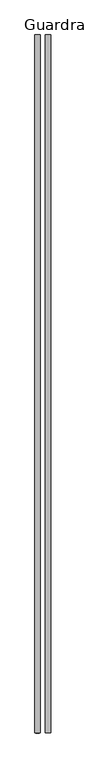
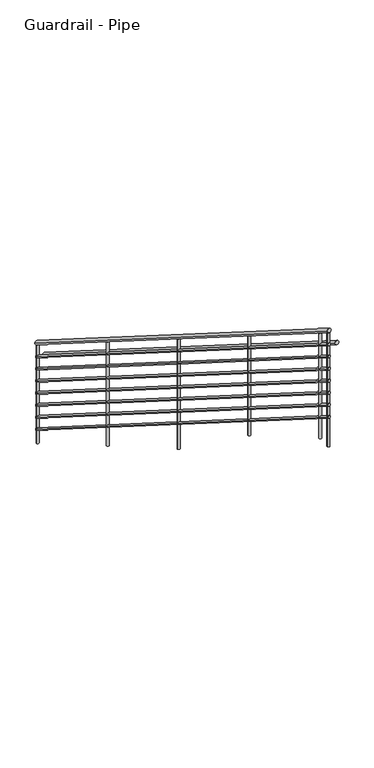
"""IFC4 building model written with IfcOpenShell, lengths in millimetres: railing geometry, Guardrail - Pipe."""

from ifc_helpers import new_model, si_unit, frame, origin, place, context, project, spatial, circle_curve, ellipse_curve, source, transform, mapped, element, save
from ifc_brep_helpers import plane_surface, cylinder_surface, advanced_brep


def guardrail_pipe_35f92d01(model_context):
    return source(origin(), model_context, "Body", "AdvancedBrep", [
        advanced_brep(
        [(-21997.1977721, 4514.4811943, 1220.7318155), (-22035.2977721, 4514.4811943, 1220.7318155), (-21997.1977721, -514.7188057, 4397.0686576), (-22035.2977721, -514.7188057, 4397.0686576)],
        [
            (0, 1, ellipse_curve(frame((-22016.2477721, 4514.4811943, 1220.7318155), z_axis=(0.0, 1.0, 0.0), x_axis=(0.0, 0.0, -1.0)), 22.5313424, 19.05)),
            (1, 0, ellipse_curve(frame((-22016.2477721, 4514.4811943, 1220.7318155), z_axis=(0.0, 1.0, 0.0), x_axis=(0.0, 0.0, -1.0)), 22.5313424, 19.05)),
            (2, 3, ellipse_curve(frame((-22016.2477721, -514.7188057, 4397.0686576), z_axis=(0.0, -1.0, 0.0), x_axis=(0.0, 0.0, -1.0)), 22.5313424, 19.05)),
            (3, 2, ellipse_curve(frame((-22016.2477721, -514.7188057, 4397.0686576), z_axis=(0.0, -1.0, 0.0), x_axis=(0.0, 0.0, -1.0)), 22.5313424, 19.05)),
            (0, 2),
            (3, 1),
        ],
        [
            plane_surface(frame((-22016.2477721, 4514.4811943, 1243.2631579), z_axis=(0.0, 1.0, 0.0), x_axis=(0.0, 0.0, -1.0))),
            plane_surface(frame((-22016.2477721, -514.7188057, 4419.6), z_axis=(0.0, -1.0, 0.0), x_axis=(0.0, 0.0, -1.0))),
            cylinder_surface(frame((-22016.2477721, 4504.3086279, 1227.1565943), z_axis=(0.0, 0.8454889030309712, -0.5339929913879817), x_axis=(-1.0, 0.0, 0.0)), 19.05),
        ],
        [
            (0, [[1, 2]]),
            (1, [[3, 4]]),
            (2, [[-1, 5, -4, 6]]),
            (2, [[-2, -6, -3, -5]]),
        ],
    ),
        advanced_brep(
        [(-22003.5477721, 4514.4811943, 1075.8422629), (-22028.9477721, 4514.4811943, 1075.8422629), (-22003.5477721, -514.7188057, 4252.179105), (-22028.9477721, -514.7188057, 4252.179105)],
        [
            (0, 1, ellipse_curve(frame((-22016.2477721, 4514.4811943, 1075.8422629), z_axis=(0.0, 1.0, 0.0), x_axis=(0.0, 0.0, -1.0)), 15.020895, 12.7)),
            (1, 0, ellipse_curve(frame((-22016.2477721, 4514.4811943, 1075.8422629), z_axis=(0.0, 1.0, 0.0), x_axis=(0.0, 0.0, -1.0)), 15.020895, 12.7)),
            (2, 3, ellipse_curve(frame((-22016.2477721, -514.7188057, 4252.179105), z_axis=(0.0, -1.0, 0.0), x_axis=(0.0, 0.0, -1.0)), 15.020895, 12.7)),
            (3, 2, ellipse_curve(frame((-22016.2477721, -514.7188057, 4252.179105), z_axis=(0.0, -1.0, 0.0), x_axis=(0.0, 0.0, -1.0)), 15.020895, 12.7)),
            (0, 2),
            (3, 1),
        ],
        [
            plane_surface(frame((-22016.2477721, 4514.4811943, 1090.8631579), z_axis=(0.0, 1.0, 0.0), x_axis=(0.0, 0.0, -1.0))),
            plane_surface(frame((-22016.2477721, -514.7188057, 4267.2), z_axis=(0.0, -1.0, 0.0), x_axis=(0.0, 0.0, -1.0))),
            cylinder_surface(frame((-22016.2477721, 4507.6994834, 1080.1254488), z_axis=(0.0, 0.8454889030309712, -0.5339929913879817), x_axis=(-1.0, 0.0, 0.0)), 12.7),
        ],
        [
            (0, [[1, 2]]),
            (1, [[3, 4]]),
            (2, [[-1, 5, -4, 6]]),
            (2, [[-2, -6, -3, -5]]),
        ],
    ),
        advanced_brep(
        [(-21920.9977721, 4514.4811943, 1068.3318155), (-21959.0977721, 4514.4811943, 1068.3318155), (-21920.9977721, -514.7188057, 4244.6686576), (-21959.0977721, -514.7188057, 4244.6686576)],
        [
            (0, 1, ellipse_curve(frame((-21940.0477721, 4514.4811943, 1068.3318155), z_axis=(0.0, 1.0, 0.0), x_axis=(0.0, 0.0, -1.0)), 22.5313424, 19.05)),
            (1, 0, ellipse_curve(frame((-21940.0477721, 4514.4811943, 1068.3318155), z_axis=(0.0, 1.0, 0.0), x_axis=(0.0, 0.0, -1.0)), 22.5313424, 19.05)),
            (2, 3, ellipse_curve(frame((-21940.0477721, -514.7188057, 4244.6686576), z_axis=(0.0, -1.0, 0.0), x_axis=(0.0, 0.0, -1.0)), 22.5313424, 19.05)),
            (3, 2, ellipse_curve(frame((-21940.0477721, -514.7188057, 4244.6686576), z_axis=(0.0, -1.0, 0.0), x_axis=(0.0, 0.0, -1.0)), 22.5313424, 19.05)),
            (0, 2),
            (3, 1),
        ],
        [
            plane_surface(frame((-21940.0477721, 4514.4811943, 1090.8631579), z_axis=(0.0, 1.0, 0.0), x_axis=(0.0, 0.0, -1.0))),
            plane_surface(frame((-21940.0477721, -514.7188057, 4267.2), z_axis=(0.0, -1.0, 0.0), x_axis=(0.0, 0.0, -1.0))),
            cylinder_surface(frame((-21940.0477721, 4504.3086279, 1074.7565943), z_axis=(0.0, 0.8454889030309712, -0.5339929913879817), x_axis=(-1.0, 0.0, 0.0)), 19.05),
        ],
        [
            (0, [[1, 2]]),
            (1, [[3, 4]]),
            (2, [[-1, 5, -4, 6]]),
            (2, [[-2, -6, -3, -5]]),
        ],
    ),
        advanced_brep(
        [(-22003.5477721, 4514.4811943, 948.8422629), (-22028.9477721, 4514.4811943, 948.8422629), (-22003.5477721, -514.7188057, 4125.179105), (-22028.9477721, -514.7188057, 4125.179105)],
        [
            (0, 1, ellipse_curve(frame((-22016.2477721, 4514.4811943, 948.8422629), z_axis=(0.0, 1.0, 0.0), x_axis=(0.0, 0.0, -1.0)), 15.020895, 12.7)),
            (1, 0, ellipse_curve(frame((-22016.2477721, 4514.4811943, 948.8422629), z_axis=(0.0, 1.0, 0.0), x_axis=(0.0, 0.0, -1.0)), 15.020895, 12.7)),
            (2, 3, ellipse_curve(frame((-22016.2477721, -514.7188057, 4125.179105), z_axis=(0.0, -1.0, 0.0), x_axis=(0.0, 0.0, -1.0)), 15.020895, 12.7)),
            (3, 2, ellipse_curve(frame((-22016.2477721, -514.7188057, 4125.179105), z_axis=(0.0, -1.0, 0.0), x_axis=(0.0, 0.0, -1.0)), 15.020895, 12.7)),
            (0, 2),
            (3, 1),
        ],
        [
            plane_surface(frame((-22016.2477721, 4514.4811943, 963.8631579), z_axis=(0.0, 1.0, 0.0), x_axis=(0.0, 0.0, -1.0))),
            plane_surface(frame((-22016.2477721, -514.7188057, 4140.2), z_axis=(0.0, -1.0, 0.0), x_axis=(0.0, 0.0, -1.0))),
            cylinder_surface(frame((-22016.2477721, 4507.6994834, 953.1254488), z_axis=(0.0, 0.8454889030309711, -0.5339929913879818), x_axis=(-1.0, 0.0, 0.0)), 12.7),
        ],
        [
            (0, [[1, 2]]),
            (1, [[3, 4]]),
            (2, [[-1, 5, -4, 6]]),
            (2, [[-2, -6, -3, -5]]),
        ],
    ),
        advanced_brep(
        [(-22003.5477721, 4514.4811943, 821.8422629), (-22028.9477721, 4514.4811943, 821.8422629), (-22003.5477721, -514.7188057, 3998.179105), (-22028.9477721, -514.7188057, 3998.179105)],
        [
            (0, 1, ellipse_curve(frame((-22016.2477721, 4514.4811943, 821.8422629), z_axis=(0.0, 1.0, 0.0), x_axis=(0.0, 0.0, -1.0)), 15.020895, 12.7)),
            (1, 0, ellipse_curve(frame((-22016.2477721, 4514.4811943, 821.8422629), z_axis=(0.0, 1.0, 0.0), x_axis=(0.0, 0.0, -1.0)), 15.020895, 12.7)),
            (2, 3, ellipse_curve(frame((-22016.2477721, -514.7188057, 3998.179105), z_axis=(0.0, -1.0, 0.0), x_axis=(0.0, 0.0, -1.0)), 15.020895, 12.7)),
            (3, 2, ellipse_curve(frame((-22016.2477721, -514.7188057, 3998.179105), z_axis=(0.0, -1.0, 0.0), x_axis=(0.0, 0.0, -1.0)), 15.020895, 12.7)),
            (0, 2),
            (3, 1),
        ],
        [
            plane_surface(frame((-22016.2477721, 4514.4811943, 836.8631579), z_axis=(0.0, 1.0, 0.0), x_axis=(0.0, 0.0, -1.0))),
            plane_surface(frame((-22016.2477721, -514.7188057, 4013.2), z_axis=(0.0, -1.0, 0.0), x_axis=(0.0, 0.0, -1.0))),
            cylinder_surface(frame((-22016.2477721, 4507.6994834, 826.1254488), z_axis=(0.0, 0.8454889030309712, -0.5339929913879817), x_axis=(-1.0, 0.0, 0.0)), 12.7),
        ],
        [
            (0, [[1, 2]]),
            (1, [[3, 4]]),
            (2, [[-1, 5, -4, 6]]),
            (2, [[-2, -6, -3, -5]]),
        ],
    ),
        advanced_brep(
        [(-22003.5477721, 4514.4811943, 694.8422629), (-22028.9477721, 4514.4811943, 694.8422629), (-22003.5477721, -514.7188057, 3871.179105), (-22028.9477721, -514.7188057, 3871.179105)],
        [
            (0, 1, ellipse_curve(frame((-22016.2477721, 4514.4811943, 694.8422629), z_axis=(0.0, 1.0, 0.0), x_axis=(0.0, 0.0, -1.0)), 15.020895, 12.7)),
            (1, 0, ellipse_curve(frame((-22016.2477721, 4514.4811943, 694.8422629), z_axis=(0.0, 1.0, 0.0), x_axis=(0.0, 0.0, -1.0)), 15.020895, 12.7)),
            (2, 3, ellipse_curve(frame((-22016.2477721, -514.7188057, 3871.179105), z_axis=(0.0, -1.0, 0.0), x_axis=(0.0, 0.0, -1.0)), 15.020895, 12.7)),
            (3, 2, ellipse_curve(frame((-22016.2477721, -514.7188057, 3871.179105), z_axis=(0.0, -1.0, 0.0), x_axis=(0.0, 0.0, -1.0)), 15.020895, 12.7)),
            (0, 2),
            (3, 1),
        ],
        [
            plane_surface(frame((-22016.2477721, 4514.4811943, 709.8631579), z_axis=(0.0, 1.0, 0.0), x_axis=(0.0, 0.0, -1.0))),
            plane_surface(frame((-22016.2477721, -514.7188057, 3886.2), z_axis=(0.0, -1.0, 0.0), x_axis=(0.0, 0.0, -1.0))),
            cylinder_surface(frame((-22016.2477721, 4507.6994834, 699.1254488), z_axis=(0.0, 0.8454889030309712, -0.5339929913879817), x_axis=(-1.0, 0.0, 0.0)), 12.7),
        ],
        [
            (0, [[1, 2]]),
            (1, [[3, 4]]),
            (2, [[-1, 5, -4, 6]]),
            (2, [[-2, -6, -3, -5]]),
        ],
    ),
        advanced_brep(
        [(-22003.5477721, 4514.4811943, 567.8422629), (-22028.9477721, 4514.4811943, 567.8422629), (-22003.5477721, -514.7188057, 3744.179105), (-22028.9477721, -514.7188057, 3744.179105)],
        [
            (0, 1, ellipse_curve(frame((-22016.2477721, 4514.4811943, 567.8422629), z_axis=(0.0, 1.0, 0.0), x_axis=(0.0, 0.0, -1.0)), 15.020895, 12.7)),
            (1, 0, ellipse_curve(frame((-22016.2477721, 4514.4811943, 567.8422629), z_axis=(0.0, 1.0, 0.0), x_axis=(0.0, 0.0, -1.0)), 15.020895, 12.7)),
            (2, 3, ellipse_curve(frame((-22016.2477721, -514.7188057, 3744.179105), z_axis=(0.0, -1.0, 0.0), x_axis=(0.0, 0.0, -1.0)), 15.020895, 12.7)),
            (3, 2, ellipse_curve(frame((-22016.2477721, -514.7188057, 3744.179105), z_axis=(0.0, -1.0, 0.0), x_axis=(0.0, 0.0, -1.0)), 15.020895, 12.7)),
            (0, 2),
            (3, 1),
        ],
        [
            plane_surface(frame((-22016.2477721, 4514.4811943, 582.8631579), z_axis=(0.0, 1.0, 0.0), x_axis=(0.0, 0.0, -1.0))),
            plane_surface(frame((-22016.2477721, -514.7188057, 3759.2), z_axis=(0.0, -1.0, 0.0), x_axis=(0.0, 0.0, -1.0))),
            cylinder_surface(frame((-22016.2477721, 4507.6994834, 572.1254488), z_axis=(0.0, 0.8454889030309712, -0.5339929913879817), x_axis=(-1.0, 0.0, 0.0)), 12.7),
        ],
        [
            (0, [[1, 2]]),
            (1, [[3, 4]]),
            (2, [[-1, 5, -4, 6]]),
            (2, [[-2, -6, -3, -5]]),
        ],
    ),
        advanced_brep(
        [(-22003.5477721, 4514.4811943, 440.8422629), (-22028.9477721, 4514.4811943, 440.8422629), (-22003.5477721, -514.7188057, 3617.179105), (-22028.9477721, -514.7188057, 3617.179105)],
        [
            (0, 1, ellipse_curve(frame((-22016.2477721, 4514.4811943, 440.8422629), z_axis=(0.0, 1.0, 0.0), x_axis=(0.0, 0.0, -1.0)), 15.020895, 12.7)),
            (1, 0, ellipse_curve(frame((-22016.2477721, 4514.4811943, 440.8422629), z_axis=(0.0, 1.0, 0.0), x_axis=(0.0, 0.0, -1.0)), 15.020895, 12.7)),
            (2, 3, ellipse_curve(frame((-22016.2477721, -514.7188057, 3617.179105), z_axis=(0.0, -1.0, 0.0), x_axis=(0.0, 0.0, -1.0)), 15.020895, 12.7)),
            (3, 2, ellipse_curve(frame((-22016.2477721, -514.7188057, 3617.179105), z_axis=(0.0, -1.0, 0.0), x_axis=(0.0, 0.0, -1.0)), 15.020895, 12.7)),
            (0, 2),
            (3, 1),
        ],
        [
            plane_surface(frame((-22016.2477721, 4514.4811943, 455.8631579), z_axis=(0.0, 1.0, 0.0), x_axis=(0.0, 0.0, -1.0))),
            plane_surface(frame((-22016.2477721, -514.7188057, 3632.2), z_axis=(0.0, -1.0, 0.0), x_axis=(0.0, 0.0, -1.0))),
            cylinder_surface(frame((-22016.2477721, 4507.6994834, 445.1254488), z_axis=(0.0, 0.8454889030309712, -0.5339929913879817), x_axis=(-1.0, 0.0, 0.0)), 12.7),
        ],
        [
            (0, [[1, 2]]),
            (1, [[3, 4]]),
            (2, [[-1, 5, -4, 6]]),
            (2, [[-2, -6, -3, -5]]),
        ],
    ),
        advanced_brep(
        [(-22003.5477721, 4514.4811943, 313.8422629), (-22028.9477721, 4514.4811943, 313.8422629), (-22003.5477721, -514.7188057, 3490.179105), (-22028.9477721, -514.7188057, 3490.179105)],
        [
            (0, 1, ellipse_curve(frame((-22016.2477721, 4514.4811943, 313.8422629), z_axis=(0.0, 1.0, 0.0), x_axis=(0.0, 0.0, -1.0)), 15.020895, 12.7)),
            (1, 0, ellipse_curve(frame((-22016.2477721, 4514.4811943, 313.8422629), z_axis=(0.0, 1.0, 0.0), x_axis=(0.0, 0.0, -1.0)), 15.020895, 12.7)),
            (2, 3, ellipse_curve(frame((-22016.2477721, -514.7188057, 3490.179105), z_axis=(0.0, -1.0, 0.0), x_axis=(0.0, 0.0, -1.0)), 15.020895, 12.7)),
            (3, 2, ellipse_curve(frame((-22016.2477721, -514.7188057, 3490.179105), z_axis=(0.0, -1.0, 0.0), x_axis=(0.0, 0.0, -1.0)), 15.020895, 12.7)),
            (0, 2),
            (3, 1),
        ],
        [
            plane_surface(frame((-22016.2477721, 4514.4811943, 328.8631579), z_axis=(0.0, 1.0, 0.0), x_axis=(0.0, 0.0, -1.0))),
            plane_surface(frame((-22016.2477721, -514.7188057, 3505.2), z_axis=(0.0, -1.0, 0.0), x_axis=(0.0, 0.0, -1.0))),
            cylinder_surface(frame((-22016.2477721, 4507.6994834, 318.1254488), z_axis=(0.0, 0.8454889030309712, -0.5339929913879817), x_axis=(-1.0, 0.0, 0.0)), 12.7),
        ],
        [
            (0, [[1, 2]]),
            (1, [[3, 4]]),
            (2, [[-1, 5, -4, 6]]),
            (2, [[-2, -6, -3, -5]]),
        ],
    ),
        advanced_brep(
        [(-22028.9477721, -362.3188057, 4278.2846835), (-22028.9477721, -362.3188057, 3176.3368421), (-22003.5477721, -362.3188057, 3176.3368421), (-22003.5477721, -362.3188057, 4278.2846835)],
        [
            (0, 1),
            (1, 2, circle_curve(frame((-22016.2477721, -362.3188057, 3176.3368421), z_axis=(0.0, 0.0, 1.0), x_axis=(1.0, 0.0, 0.0)), 12.7)),
            (2, 3),
            (3, 0, ellipse_curve(frame((-22016.2477721, -362.3188057, 4278.2846835), z_axis=(0.0, -0.5339929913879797, -0.8454889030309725), x_axis=(0.0, -0.8454889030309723, 0.5339929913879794)), 15.020895, 12.7)),
            (0, 3, ellipse_curve(frame((-22016.2477721, -362.3188057, 4278.2846835), z_axis=(0.0, -0.5339929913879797, -0.8454889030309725), x_axis=(0.0, -0.8454889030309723, 0.5339929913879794)), 15.020895, 12.7)),
            (2, 1, circle_curve(frame((-22016.2477721, -362.3188057, 3176.3368421), z_axis=(0.0, 0.0, 1.0), x_axis=(1.0, 0.0, 0.0)), 12.7)),
        ],
        [
            cylinder_surface(frame((-22016.2477721, -362.3188057, 2947.7368421), z_axis=(0.0, 0.0, 1.0), x_axis=(1.0, 0.0, 0.0)), 12.7),
            plane_surface(frame((-21990.8477721, -387.7188057, 4294.3267888), z_axis=(0.0, 0.5339929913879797, 0.8454889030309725), x_axis=(-1.0, 0.0, 0.0))),
            plane_surface(frame((-21990.8477721, -336.9188057, 3176.3368421), z_axis=(0.0, 0.0, -1.0), x_axis=(-1.0, 0.0, 0.0))),
        ],
        [
            (0, [[1, 2, 3, 4]]),
            (0, [[-1, 5, -3, 6]]),
            (1, [[-4, -5]]),
            (2, [[-2, -6]]),
        ],
    ),
        advanced_brep(
        [(-22028.9477721, 856.8811943, 3508.2636309), (-22028.9477721, 856.8811943, 2470.4842105), (-22003.5477721, 856.8811943, 2470.4842105), (-22003.5477721, 856.8811943, 3508.2636309)],
        [
            (0, 1),
            (1, 2, circle_curve(frame((-22016.2477721, 856.8811943, 2470.4842105), z_axis=(0.0, 0.0, 1.0), x_axis=(1.0, 0.0, 0.0)), 12.7)),
            (2, 3),
            (3, 0, ellipse_curve(frame((-22016.2477721, 856.8811943, 3508.2636309), z_axis=(0.0, -0.5339929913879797, -0.8454889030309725), x_axis=(0.0, -0.8454889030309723, 0.5339929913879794)), 15.020895, 12.7)),
            (0, 3, ellipse_curve(frame((-22016.2477721, 856.8811943, 3508.2636309), z_axis=(0.0, -0.5339929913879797, -0.8454889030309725), x_axis=(0.0, -0.8454889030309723, 0.5339929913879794)), 15.020895, 12.7)),
            (2, 1, circle_curve(frame((-22016.2477721, 856.8811943, 2470.4842105), z_axis=(0.0, 0.0, 1.0), x_axis=(1.0, 0.0, 0.0)), 12.7)),
        ],
        [
            cylinder_surface(frame((-22016.2477721, 856.8811943, 2241.8842105), z_axis=(0.0, 0.0, 1.0), x_axis=(1.0, 0.0, 0.0)), 12.7),
            plane_surface(frame((-21990.8477721, 831.4811943, 3524.3057362), z_axis=(0.0, 0.5339929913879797, 0.8454889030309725), x_axis=(-1.0, 0.0, 0.0))),
            plane_surface(frame((-21990.8477721, 882.2811943, 2470.4842105), z_axis=(0.0, 0.0, -1.0), x_axis=(-1.0, 0.0, 0.0))),
        ],
        [
            (0, [[1, 2, 3, 4]]),
            (0, [[-1, 5, -3, 6]]),
            (1, [[-4, -5]]),
            (2, [[-2, -6]]),
        ],
    ),
        advanced_brep(
        [(-22028.9477721, 2076.0811943, 2738.2425783), (-22028.9477721, 2076.0811943, 1588.1684211), (-22003.5477721, 2076.0811943, 1588.1684211), (-22003.5477721, 2076.0811943, 2738.2425783)],
        [
            (0, 1),
            (1, 2, circle_curve(frame((-22016.2477721, 2076.0811943, 1588.1684211), z_axis=(0.0, 0.0, 1.0), x_axis=(1.0, 0.0, 0.0)), 12.7)),
            (2, 3),
            (3, 0, ellipse_curve(frame((-22016.2477721, 2076.0811943, 2738.2425783), z_axis=(0.0, -0.5339929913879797, -0.8454889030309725), x_axis=(0.0, -0.8454889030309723, 0.5339929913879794)), 15.020895, 12.7)),
            (0, 3, ellipse_curve(frame((-22016.2477721, 2076.0811943, 2738.2425783), z_axis=(0.0, -0.5339929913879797, -0.8454889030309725), x_axis=(0.0, -0.8454889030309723, 0.5339929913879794)), 15.020895, 12.7)),
            (2, 1, circle_curve(frame((-22016.2477721, 2076.0811943, 1588.1684211), z_axis=(0.0, 0.0, 1.0), x_axis=(1.0, 0.0, 0.0)), 12.7)),
        ],
        [
            cylinder_surface(frame((-22016.2477721, 2076.0811943, 1359.5684211), z_axis=(0.0, 0.0, 1.0), x_axis=(1.0, 0.0, 0.0)), 12.7),
            plane_surface(frame((-21990.8477721, 2050.6811943, 2754.2846835), z_axis=(0.0, 0.5339929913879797, 0.8454889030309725), x_axis=(-1.0, 0.0, 0.0))),
            plane_surface(frame((-21990.8477721, 2101.4811943, 1588.1684211), z_axis=(0.0, 0.0, -1.0), x_axis=(-1.0, 0.0, 0.0))),
        ],
        [
            (0, [[1, 2, 3, 4]]),
            (0, [[-1, 5, -3, 6]]),
            (1, [[-4, -5]]),
            (2, [[-2, -6]]),
        ],
    ),
        advanced_brep(
        [(-22028.9477721, 3295.2811943, 1968.2215257), (-22028.9477721, 3295.2811943, 882.3157895), (-22003.5477721, 3295.2811943, 882.3157895), (-22003.5477721, 3295.2811943, 1968.2215257)],
        [
            (0, 1),
            (1, 2, circle_curve(frame((-22016.2477721, 3295.2811943, 882.3157895), z_axis=(0.0, 0.0, 1.0), x_axis=(1.0, 0.0, 0.0)), 12.7)),
            (2, 3),
            (3, 0, ellipse_curve(frame((-22016.2477721, 3295.2811943, 1968.2215257), z_axis=(0.0, -0.5339929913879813, -0.8454889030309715), x_axis=(0.0, -0.8454889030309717, 0.5339929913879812)), 15.020895, 12.7)),
            (0, 3, ellipse_curve(frame((-22016.2477721, 3295.2811943, 1968.2215257), z_axis=(0.0, -0.5339929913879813, -0.8454889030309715), x_axis=(0.0, -0.8454889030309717, 0.5339929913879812)), 15.020895, 12.7)),
            (2, 1, circle_curve(frame((-22016.2477721, 3295.2811943, 882.3157895), z_axis=(0.0, 0.0, 1.0), x_axis=(1.0, 0.0, 0.0)), 12.7)),
        ],
        [
            cylinder_surface(frame((-22016.2477721, 3295.2811943, 653.7157895), z_axis=(0.0, 0.0, 1.0), x_axis=(1.0, 0.0, 0.0)), 12.7),
            plane_surface(frame((-21990.8477721, 3269.8811943, 1984.2636309), z_axis=(0.0, 0.5339929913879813, 0.8454889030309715), x_axis=(-1.0, 0.0, 0.0))),
            plane_surface(frame((-21990.8477721, 3320.6811943, 882.3157895), z_axis=(0.0, 0.0, -1.0), x_axis=(-1.0, 0.0, 0.0))),
        ],
        [
            (0, [[1, 2, 3, 4]]),
            (0, [[-1, 5, -3, 6]]),
            (1, [[-4, -5]]),
            (2, [[-2, -6]]),
        ],
    ),
        advanced_brep(
        [(-22028.9477721, -502.0188057, 4366.5162625), (-22028.9477721, -502.0188057, 3176.3368421), (-22003.5477721, -502.0188057, 3176.3368421), (-22003.5477721, -502.0188057, 4366.5162625)],
        [
            (0, 1),
            (1, 2, circle_curve(frame((-22016.2477721, -502.0188057, 3176.3368421), z_axis=(0.0, 0.0, 1.0), x_axis=(1.0, 0.0, 0.0)), 12.7)),
            (2, 3),
            (3, 0, ellipse_curve(frame((-22016.2477721, -502.0188057, 4366.5162625), z_axis=(0.0, -0.5339929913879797, -0.8454889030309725), x_axis=(0.0, -0.8454889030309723, 0.5339929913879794)), 15.020895, 12.7)),
            (0, 3, ellipse_curve(frame((-22016.2477721, -502.0188057, 4366.5162625), z_axis=(0.0, -0.5339929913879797, -0.8454889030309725), x_axis=(0.0, -0.8454889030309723, 0.5339929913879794)), 15.020895, 12.7)),
            (2, 1, circle_curve(frame((-22016.2477721, -502.0188057, 3176.3368421), z_axis=(0.0, 0.0, 1.0), x_axis=(1.0, 0.0, 0.0)), 12.7)),
        ],
        [
            cylinder_surface(frame((-22016.2477721, -502.0188057, 2947.7368421), z_axis=(0.0, 0.0, 1.0), x_axis=(1.0, 0.0, 0.0)), 12.7),
            plane_surface(frame((-21990.8477721, -527.4188057, 4382.5583678), z_axis=(0.0, 0.5339929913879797, 0.8454889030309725), x_axis=(-1.0, 0.0, 0.0))),
            plane_surface(frame((-21990.8477721, -476.6188057, 3176.3368421), z_axis=(0.0, 0.0, -1.0), x_axis=(-1.0, 0.0, 0.0))),
        ],
        [
            (0, [[1, 2, 3, 4]]),
            (0, [[-1, 5, -3, 6]]),
            (1, [[-4, -5]]),
            (2, [[-2, -6]]),
        ],
    ),
        advanced_brep(
        [(-22028.9477721, 4501.7811943, 1206.2215257), (-22028.9477721, 4501.7811943, 176.4631579), (-22003.5477721, 4501.7811943, 176.4631579), (-22003.5477721, 4501.7811943, 1206.2215257)],
        [
            (0, 1),
            (1, 2, circle_curve(frame((-22016.2477721, 4501.7811943, 176.4631579), z_axis=(0.0, 0.0, 1.0), x_axis=(1.0, 0.0, 0.0)), 12.7)),
            (2, 3),
            (3, 0, ellipse_curve(frame((-22016.2477721, 4501.7811943, 1206.2215257), z_axis=(0.0, -0.5339929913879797, -0.8454889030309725), x_axis=(0.0, -0.8454889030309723, 0.5339929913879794)), 15.020895, 12.7)),
            (0, 3, ellipse_curve(frame((-22016.2477721, 4501.7811943, 1206.2215257), z_axis=(0.0, -0.5339929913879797, -0.8454889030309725), x_axis=(0.0, -0.8454889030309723, 0.5339929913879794)), 15.020895, 12.7)),
            (2, 1, circle_curve(frame((-22016.2477721, 4501.7811943, 176.4631579), z_axis=(0.0, 0.0, 1.0), x_axis=(1.0, 0.0, 0.0)), 12.7)),
        ],
        [
            cylinder_surface(frame((-22016.2477721, 4501.7811943, -52.1368421), z_axis=(0.0, 0.0, 1.0), x_axis=(1.0, 0.0, 0.0)), 12.7),
            plane_surface(frame((-21990.8477721, 4476.3811943, 1222.2636309), z_axis=(0.0, 0.5339929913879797, 0.8454889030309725), x_axis=(-1.0, 0.0, 0.0))),
            plane_surface(frame((-21990.8477721, 4527.1811943, 176.4631579), z_axis=(0.0, 0.0, -1.0), x_axis=(-1.0, 0.0, 0.0))),
        ],
        [
            (0, [[1, 2, 3, 4]]),
            (0, [[-1, 5, -3, 6]]),
            (1, [[-4, -5]]),
            (2, [[-2, -6]]),
        ],
    ),
    ])


if __name__ == "__main__":
    model = new_model("IFC4")
    model_context = context("Model", 3, world=origin())
    ifc_project = project(units=[si_unit("LENGTHUNIT", "METRE", prefix="MILLI")], contexts=[model_context])
    site = spatial("IfcSite", under=ifc_project)
    building = spatial("IfcBuilding", under=site)
    placement = place(None, origin())
    guardrail_pipe_shape = guardrail_pipe_35f92d01(model_context)
    element("IfcRailing", 1, ObjectType="Guardrail - Pipe", at=placement, inside=building, context=model_context, shape_type="MappedRepresentation", body=[
        mapped(guardrail_pipe_shape, transform((0.0, 0.0, 0.0), x_axis=(1.0, 0.0, 0.0), y_axis=(0.0, 1.0, 0.0), z_axis=(0.0, 0.0, 1.0))),
    ])
    save(model, "model.ifc")
